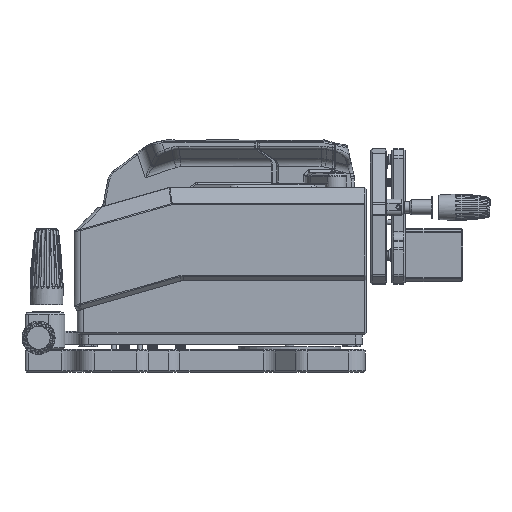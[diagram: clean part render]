
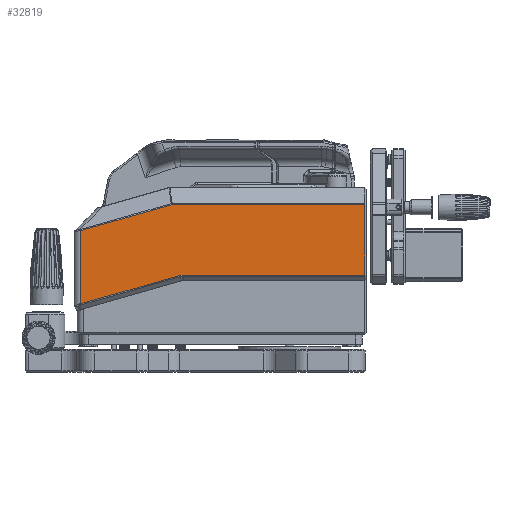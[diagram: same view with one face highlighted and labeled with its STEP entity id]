
A CAD part, left-side view. The second image highlights one B-rep face of the part: STEP entity #32819.
In plain terms, the highlighted planar face has unit normal (-1, 0, 0).
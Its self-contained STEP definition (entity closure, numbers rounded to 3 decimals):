
#173=ELLIPSE('',#35789,2.842,2.);
#2003=PLANE('',#35792);
#3661=FACE_OUTER_BOUND('',#5695,.T.);
#5695=EDGE_LOOP('',(#27489,#27490,#27491,#27492,#27493,#27494,#27495,#27496));
#8158=LINE('',#67376,#10691);
#8161=LINE('',#67387,#10694);
#8164=LINE('',#67399,#10697);
#8186=LINE('',#67681,#10719);
#8187=LINE('',#67683,#10720);
#8188=LINE('',#67685,#10721);
#10691=VECTOR('',#43129,10.);
#10694=VECTOR('',#43140,10.);
#10697=VECTOR('',#43153,10.);
#10719=VECTOR('',#43287,10.);
#10720=VECTOR('',#43288,10.);
#10721=VECTOR('',#43289,10.);
#12534=CIRCLE('',#35793,8.914);
#15177=VERTEX_POINT('',#67373);
#15178=VERTEX_POINT('',#67375);
#15182=VERTEX_POINT('',#67385);
#15186=VERTEX_POINT('',#67397);
#15221=VERTEX_POINT('',#67672);
#15222=VERTEX_POINT('',#67680);
#15223=VERTEX_POINT('',#67682);
#15224=VERTEX_POINT('',#67684);
#19439=EDGE_CURVE('',#15177,#15178,#8158,.T.);
#19445=EDGE_CURVE('',#15182,#15177,#8161,.T.);
#19451=EDGE_CURVE('',#15186,#15182,#8164,.T.);
#19510=EDGE_CURVE('',#15221,#15186,#173,.T.);
#19514=EDGE_CURVE('',#15222,#15221,#8186,.T.);
#19515=EDGE_CURVE('',#15223,#15222,#8187,.T.);
#19516=EDGE_CURVE('',#15224,#15223,#8188,.T.);
#19517=EDGE_CURVE('',#15178,#15224,#12534,.T.);
#27489=ORIENTED_EDGE('',*,*,#19510,.F.);
#27490=ORIENTED_EDGE('',*,*,#19514,.F.);
#27491=ORIENTED_EDGE('',*,*,#19515,.F.);
#27492=ORIENTED_EDGE('',*,*,#19516,.F.);
#27493=ORIENTED_EDGE('',*,*,#19517,.F.);
#27494=ORIENTED_EDGE('',*,*,#19439,.F.);
#27495=ORIENTED_EDGE('',*,*,#19445,.F.);
#27496=ORIENTED_EDGE('',*,*,#19451,.F.);
#32819=ADVANCED_FACE('',(#3661),#2003,.T.);
#35789=AXIS2_PLACEMENT_3D('',#67674,#43277,#43278);
#35792=AXIS2_PLACEMENT_3D('',#67679,#43285,#43286);
#35793=AXIS2_PLACEMENT_3D('',#67686,#43290,#43291);
#43129=DIRECTION('',(0.,1.,0.));
#43140=DIRECTION('',(0.,0.,-1.));
#43153=DIRECTION('',(0.,-1.,0.));
#43277=DIRECTION('center_axis',(1.,0.,0.));
#43278=DIRECTION('ref_axis',(0.,0.138,0.99));
#43285=DIRECTION('center_axis',(-1.,0.,0.));
#43286=DIRECTION('ref_axis',(0.,-1.,0.));
#43287=DIRECTION('',(0.,-0.962,0.274));
#43288=DIRECTION('',(0.,0.,1.));
#43289=DIRECTION('',(0.,0.962,-0.274));
#43290=DIRECTION('center_axis',(-1.,0.,0.));
#43291=DIRECTION('ref_axis',(0.,0.138,0.99));
#67373=CARTESIAN_POINT('',(-79.582,-44.332,22.272));
#67375=CARTESIAN_POINT('',(-79.582,65.4,22.272));
#67376=CARTESIAN_POINT('',(-79.582,115.101,22.272));
#67385=CARTESIAN_POINT('',(-79.582,-44.332,64.943));
#67387=CARTESIAN_POINT('',(-79.582,-44.332,-13.643));
#67397=CARTESIAN_POINT('',(-79.582,72.217,64.943));
#67399=CARTESIAN_POINT('',(-79.582,109.543,64.943));
#67672=CARTESIAN_POINT('',(-79.582,72.604,64.889));
#67674=CARTESIAN_POINT('Origin',(-79.582,72.02,62.115));
#67679=CARTESIAN_POINT('Origin',(-79.582,131.668,-13.643));
#67680=CARTESIAN_POINT('',(-79.582,127.668,49.216));
#67681=CARTESIAN_POINT('',(-79.582,128.693,48.924));
#67682=CARTESIAN_POINT('',(-79.582,127.668,4.902));
#67683=CARTESIAN_POINT('',(-79.582,127.668,-13.643));
#67684=CARTESIAN_POINT('',(-79.582,67.84,21.931));
#67685=CARTESIAN_POINT('',(-79.582,135.339,2.719));
#67686=CARTESIAN_POINT('Origin',(-79.582,65.4,13.357));
